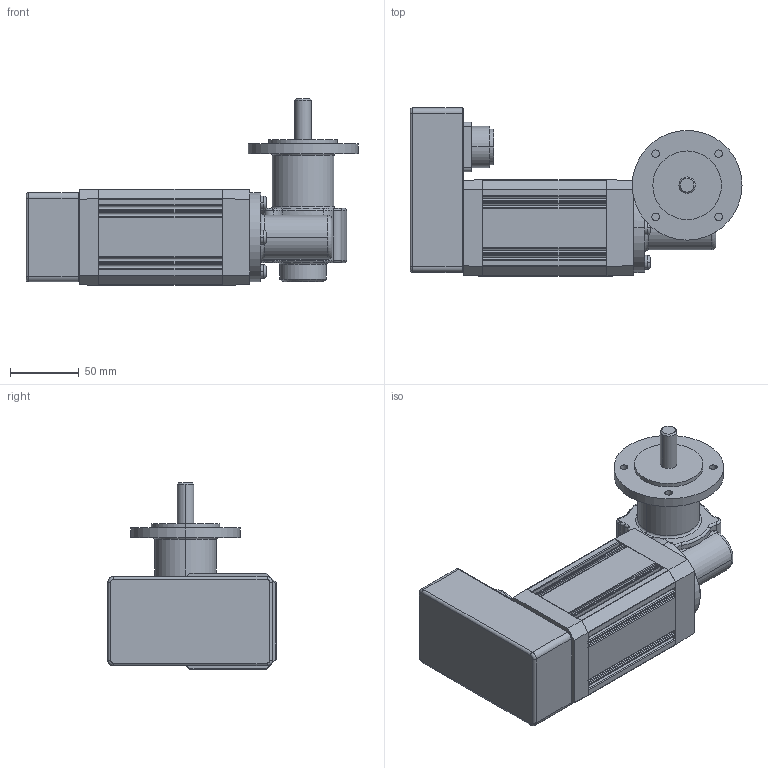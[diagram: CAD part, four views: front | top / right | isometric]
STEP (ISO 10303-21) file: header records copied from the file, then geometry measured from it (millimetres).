
FILE_DESCRIPTION(('OneSpaceDesigner STEP Export'),'2;1');
FILE_NAME('UECG303TH_GF127_F.stp','2008-06-24T 8:34:23',(''),(''),'OneSpace Designer STEP processor (Jan. 2003) for AP214(CD)(Solid Model)','OneSpace Designer 12.01D 09-Jul-2004 (C) CoCreate Software GmbH','');
FILE_SCHEMA(('AUTOMOTIVE_DESIGN_CC2 {1 2 10303 214 -1 1 5 1}'));
Length unit declared in the file: millimetre
Products named in the file (2): UECG303TH_GF127_F
Assembly tree (1 placements, depth 2):
  UECG303TH_GF127_F
    UECG303TH_GF127_F
Bounding box: 242 x 122.6 x 136.1 mm (x, y, z)
Volume: 1202773 mm3; surface area: 111131.1 mm2
Topology: 1 solids, 1 shells, 344 faces, 895 edges, 568 vertices
Faces by surface type: cylinder 153, plane 113, torus 74, cone 4
Entity records: 10672 total; most frequent: CARTESIAN_POINT 2580, ORIENTED_EDGE 1790, DIRECTION 1632, EDGE_CURVE 895, AXIS2_PLACEMENT_3D 609, VERTEX_POINT 568, VECTOR 414, LINE 414
